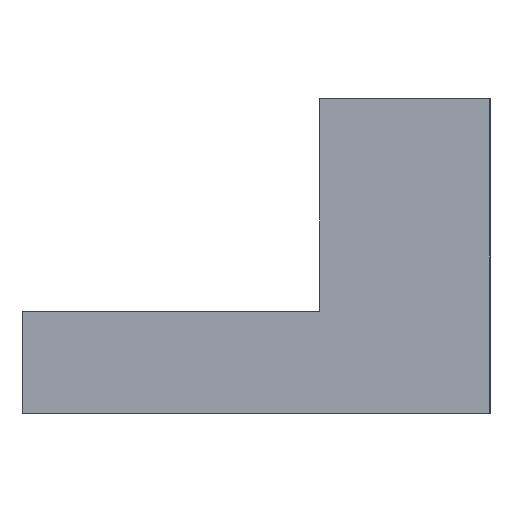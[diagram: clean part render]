
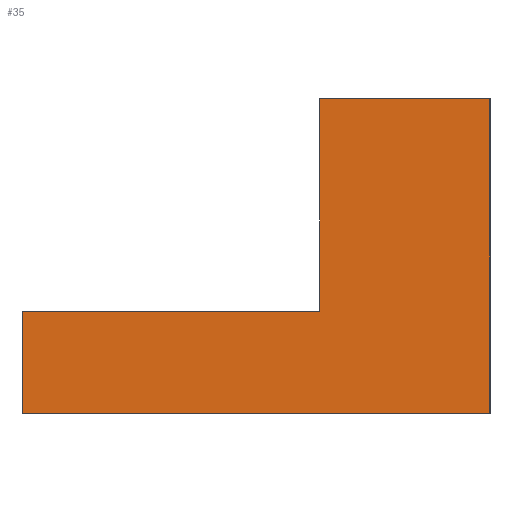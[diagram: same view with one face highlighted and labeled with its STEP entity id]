
A CAD part, left-side view. The second image highlights one B-rep face of the part: STEP entity #35.
In plain terms, the highlighted planar face has unit normal (-1, 0, 0).
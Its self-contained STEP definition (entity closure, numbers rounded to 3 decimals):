
#35 = ADVANCED_FACE('',(#36),#50,.F.);
#36 = FACE_BOUND('',#37,.F.);
#37 = EDGE_LOOP('',(#38,#73,#101,#129,#157,#185));
#38 = ORIENTED_EDGE('',*,*,#39,.F.);
#39 = EDGE_CURVE('',#40,#42,#44,.T.);
#40 = VERTEX_POINT('',#41);
#41 = CARTESIAN_POINT('',(-16.,22.,0.));
#42 = VERTEX_POINT('',#43);
#43 = CARTESIAN_POINT('',(-16.,22.,5.));
#44 = SURFACE_CURVE('',#45,(#49,#61),.PCURVE_S1.);
#45 = LINE('',#46,#47);
#46 = CARTESIAN_POINT('',(-16.,22.,0.));
#47 = VECTOR('',#48,1.);
#48 = DIRECTION('',(0.,0.,1.));
#49 = PCURVE('',#50,#55);
#50 = PLANE('',#51);
#51 = AXIS2_PLACEMENT_3D('',#52,#53,#54);
#52 = CARTESIAN_POINT('',(-16.,22.,0.));
#53 = DIRECTION('',(1.,0.,-0.));
#54 = DIRECTION('',(0.,0.,1.));
#55 = DEFINITIONAL_REPRESENTATION('',(#56),#60);
#56 = LINE('',#57,#58);
#57 = CARTESIAN_POINT('',(0.,0.));
#58 = VECTOR('',#59,1.);
#59 = DIRECTION('',(1.,0.));
#60 = ( GEOMETRIC_REPRESENTATION_CONTEXT(2) 
PARAMETRIC_REPRESENTATION_CONTEXT() REPRESENTATION_CONTEXT('2D SPACE',''
  ) );
#61 = PCURVE('',#62,#67);
#62 = PLANE('',#63);
#63 = AXIS2_PLACEMENT_3D('',#64,#65,#66);
#64 = CARTESIAN_POINT('',(-16.,22.,0.));
#65 = DIRECTION('',(-0.,1.,0.));
#66 = DIRECTION('',(0.,0.,1.));
#67 = DEFINITIONAL_REPRESENTATION('',(#68),#72);
#68 = LINE('',#69,#70);
#69 = CARTESIAN_POINT('',(0.,0.));
#70 = VECTOR('',#71,1.);
#71 = DIRECTION('',(1.,0.));
#72 = ( GEOMETRIC_REPRESENTATION_CONTEXT(2) 
PARAMETRIC_REPRESENTATION_CONTEXT() REPRESENTATION_CONTEXT('2D SPACE',''
  ) );
#73 = ORIENTED_EDGE('',*,*,#74,.T.);
#74 = EDGE_CURVE('',#40,#75,#77,.T.);
#75 = VERTEX_POINT('',#76);
#76 = CARTESIAN_POINT('',(-16.,26.,0.));
#77 = SURFACE_CURVE('',#78,(#82,#89),.PCURVE_S1.);
#78 = LINE('',#79,#80);
#79 = CARTESIAN_POINT('',(-16.,22.,0.));
#80 = VECTOR('',#81,1.);
#81 = DIRECTION('',(-0.,1.,0.));
#82 = PCURVE('',#50,#83);
#83 = DEFINITIONAL_REPRESENTATION('',(#84),#88);
#84 = LINE('',#85,#86);
#85 = CARTESIAN_POINT('',(0.,0.));
#86 = VECTOR('',#87,1.);
#87 = DIRECTION('',(0.,-1.));
#88 = ( GEOMETRIC_REPRESENTATION_CONTEXT(2) 
PARAMETRIC_REPRESENTATION_CONTEXT() REPRESENTATION_CONTEXT('2D SPACE',''
  ) );
#89 = PCURVE('',#90,#95);
#90 = PLANE('',#91);
#91 = AXIS2_PLACEMENT_3D('',#92,#93,#94);
#92 = CARTESIAN_POINT('',(-16.,22.,0.));
#93 = DIRECTION('',(0.,0.,1.));
#94 = DIRECTION('',(1.,0.,-0.));
#95 = DEFINITIONAL_REPRESENTATION('',(#96),#100);
#96 = LINE('',#97,#98);
#97 = CARTESIAN_POINT('',(0.,0.));
#98 = VECTOR('',#99,1.);
#99 = DIRECTION('',(0.,1.));
#100 = ( GEOMETRIC_REPRESENTATION_CONTEXT(2) 
PARAMETRIC_REPRESENTATION_CONTEXT() REPRESENTATION_CONTEXT('2D SPACE',''
  ) );
#101 = ORIENTED_EDGE('',*,*,#102,.T.);
#102 = EDGE_CURVE('',#75,#103,#105,.T.);
#103 = VERTEX_POINT('',#104);
#104 = CARTESIAN_POINT('',(-16.,26.,7.4));
#105 = SURFACE_CURVE('',#106,(#110,#117),.PCURVE_S1.);
#106 = LINE('',#107,#108);
#107 = CARTESIAN_POINT('',(-16.,26.,0.));
#108 = VECTOR('',#109,1.);
#109 = DIRECTION('',(0.,0.,1.));
#110 = PCURVE('',#50,#111);
#111 = DEFINITIONAL_REPRESENTATION('',(#112),#116);
#112 = LINE('',#113,#114);
#113 = CARTESIAN_POINT('',(0.,-4.));
#114 = VECTOR('',#115,1.);
#115 = DIRECTION('',(1.,0.));
#116 = ( GEOMETRIC_REPRESENTATION_CONTEXT(2) 
PARAMETRIC_REPRESENTATION_CONTEXT() REPRESENTATION_CONTEXT('2D SPACE',''
  ) );
#117 = PCURVE('',#118,#123);
#118 = PLANE('',#119);
#119 = AXIS2_PLACEMENT_3D('',#120,#121,#122);
#120 = CARTESIAN_POINT('',(-16.,26.,0.));
#121 = DIRECTION('',(-0.,1.,0.));
#122 = DIRECTION('',(0.,0.,1.));
#123 = DEFINITIONAL_REPRESENTATION('',(#124),#128);
#124 = LINE('',#125,#126);
#125 = CARTESIAN_POINT('',(0.,0.));
#126 = VECTOR('',#127,1.);
#127 = DIRECTION('',(1.,0.));
#128 = ( GEOMETRIC_REPRESENTATION_CONTEXT(2) 
PARAMETRIC_REPRESENTATION_CONTEXT() REPRESENTATION_CONTEXT('2D SPACE',''
  ) );
#129 = ORIENTED_EDGE('',*,*,#130,.F.);
#130 = EDGE_CURVE('',#131,#103,#133,.T.);
#131 = VERTEX_POINT('',#132);
#132 = CARTESIAN_POINT('',(-16.,15.,7.4));
#133 = SURFACE_CURVE('',#134,(#138,#145),.PCURVE_S1.);
#134 = LINE('',#135,#136);
#135 = CARTESIAN_POINT('',(-16.,15.,7.4));
#136 = VECTOR('',#137,1.);
#137 = DIRECTION('',(0.,1.,0.));
#138 = PCURVE('',#50,#139);
#139 = DEFINITIONAL_REPRESENTATION('',(#140),#144);
#140 = LINE('',#141,#142);
#141 = CARTESIAN_POINT('',(7.4,7.));
#142 = VECTOR('',#143,1.);
#143 = DIRECTION('',(0.,-1.));
#144 = ( GEOMETRIC_REPRESENTATION_CONTEXT(2) 
PARAMETRIC_REPRESENTATION_CONTEXT() REPRESENTATION_CONTEXT('2D SPACE',''
  ) );
#145 = PCURVE('',#146,#151);
#146 = PLANE('',#147);
#147 = AXIS2_PLACEMENT_3D('',#148,#149,#150);
#148 = CARTESIAN_POINT('',(-16.,22.,7.4));
#149 = DIRECTION('',(0.,0.,1.));
#150 = DIRECTION('',(1.,0.,-0.));
#151 = DEFINITIONAL_REPRESENTATION('',(#152),#156);
#152 = LINE('',#153,#154);
#153 = CARTESIAN_POINT('',(0.,-7.));
#154 = VECTOR('',#155,1.);
#155 = DIRECTION('',(0.,1.));
#156 = ( GEOMETRIC_REPRESENTATION_CONTEXT(2) 
PARAMETRIC_REPRESENTATION_CONTEXT() REPRESENTATION_CONTEXT('2D SPACE',''
  ) );
#157 = ORIENTED_EDGE('',*,*,#158,.F.);
#158 = EDGE_CURVE('',#159,#131,#161,.T.);
#159 = VERTEX_POINT('',#160);
#160 = CARTESIAN_POINT('',(-16.,15.,5.));
#161 = SURFACE_CURVE('',#162,(#166,#173),.PCURVE_S1.);
#162 = LINE('',#163,#164);
#163 = CARTESIAN_POINT('',(-16.,15.,5.));
#164 = VECTOR('',#165,1.);
#165 = DIRECTION('',(0.,0.,1.));
#166 = PCURVE('',#50,#167);
#167 = DEFINITIONAL_REPRESENTATION('',(#168),#172);
#168 = LINE('',#169,#170);
#169 = CARTESIAN_POINT('',(5.,7.));
#170 = VECTOR('',#171,1.);
#171 = DIRECTION('',(1.,0.));
#172 = ( GEOMETRIC_REPRESENTATION_CONTEXT(2) 
PARAMETRIC_REPRESENTATION_CONTEXT() REPRESENTATION_CONTEXT('2D SPACE',''
  ) );
#173 = PCURVE('',#174,#179);
#174 = PLANE('',#175);
#175 = AXIS2_PLACEMENT_3D('',#176,#177,#178);
#176 = CARTESIAN_POINT('',(-16.,15.,5.));
#177 = DIRECTION('',(-0.,1.,0.));
#178 = DIRECTION('',(0.,0.,1.));
#179 = DEFINITIONAL_REPRESENTATION('',(#180),#184);
#180 = LINE('',#181,#182);
#181 = CARTESIAN_POINT('',(0.,0.));
#182 = VECTOR('',#183,1.);
#183 = DIRECTION('',(1.,0.));
#184 = ( GEOMETRIC_REPRESENTATION_CONTEXT(2) 
PARAMETRIC_REPRESENTATION_CONTEXT() REPRESENTATION_CONTEXT('2D SPACE',''
  ) );
#185 = ORIENTED_EDGE('',*,*,#186,.T.);
#186 = EDGE_CURVE('',#159,#42,#187,.T.);
#187 = SURFACE_CURVE('',#188,(#192,#199),.PCURVE_S1.);
#188 = LINE('',#189,#190);
#189 = CARTESIAN_POINT('',(-16.,15.,5.));
#190 = VECTOR('',#191,1.);
#191 = DIRECTION('',(-0.,1.,0.));
#192 = PCURVE('',#50,#193);
#193 = DEFINITIONAL_REPRESENTATION('',(#194),#198);
#194 = LINE('',#195,#196);
#195 = CARTESIAN_POINT('',(5.,7.));
#196 = VECTOR('',#197,1.);
#197 = DIRECTION('',(0.,-1.));
#198 = ( GEOMETRIC_REPRESENTATION_CONTEXT(2) 
PARAMETRIC_REPRESENTATION_CONTEXT() REPRESENTATION_CONTEXT('2D SPACE',''
  ) );
#199 = PCURVE('',#200,#205);
#200 = PLANE('',#201);
#201 = AXIS2_PLACEMENT_3D('',#202,#203,#204);
#202 = CARTESIAN_POINT('',(-16.,15.,5.));
#203 = DIRECTION('',(0.,0.,1.));
#204 = DIRECTION('',(1.,0.,-0.));
#205 = DEFINITIONAL_REPRESENTATION('',(#206),#210);
#206 = LINE('',#207,#208);
#207 = CARTESIAN_POINT('',(0.,0.));
#208 = VECTOR('',#209,1.);
#209 = DIRECTION('',(0.,1.));
#210 = ( GEOMETRIC_REPRESENTATION_CONTEXT(2) 
PARAMETRIC_REPRESENTATION_CONTEXT() REPRESENTATION_CONTEXT('2D SPACE',''
  ) );
